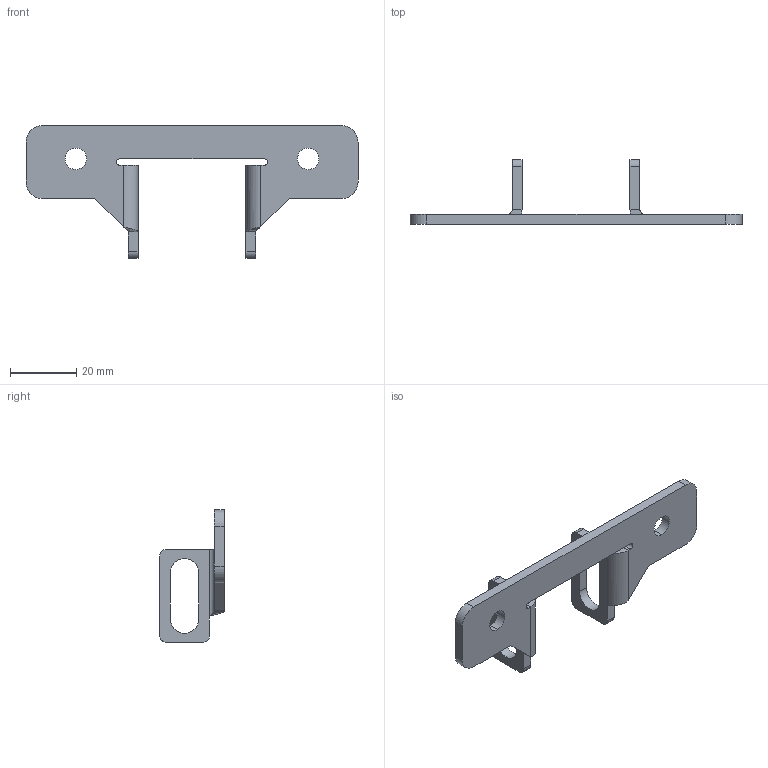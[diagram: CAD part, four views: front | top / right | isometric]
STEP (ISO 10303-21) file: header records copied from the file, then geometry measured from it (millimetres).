
FILE_DESCRIPTION (( 'STEP AP203' ), '1' );
FILE_NAME ('084.106.138-2.STEP', '2013-01-23T12:27:55', ( 'Alusic' ), ( 'Alusic' ), 'SwSTEP 2.0', 'SolidWorks 2011', '' );
FILE_SCHEMA (( 'CONFIG_CONTROL_DESIGN' ));
Length unit declared in the file: millimetre
Products named in the file (1): 084.106.138-2
Bounding box: 100 x 19.5 x 40 mm (x, y, z)
Volume: 7032.2 mm3; surface area: 6335.7 mm2
Topology: 1 solids, 1 shells, 56 faces, 146 edges, 92 vertices
Faces by surface type: plane 30, cylinder 24, bspline 2
Entity records: 1911 total; most frequent: CARTESIAN_POINT 421, DIRECTION 296, ORIENTED_EDGE 292, EDGE_CURVE 146, AXIS2_PLACEMENT_3D 99, VECTOR 98, LINE 98, VERTEX_POINT 92
